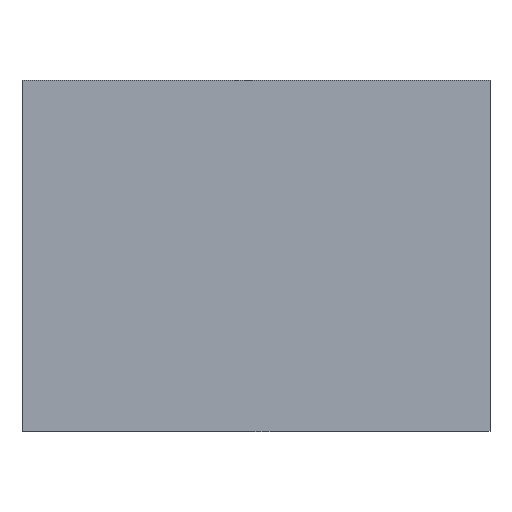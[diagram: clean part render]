
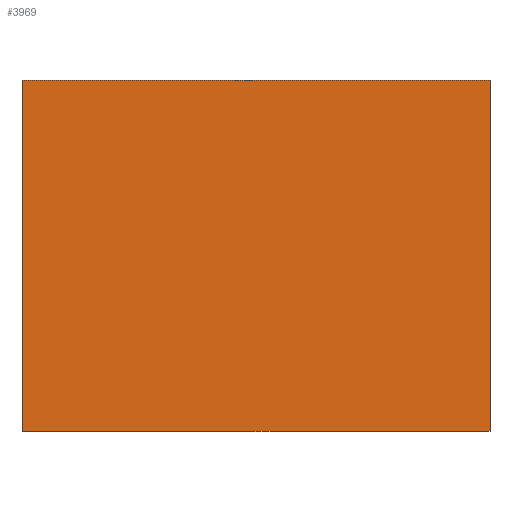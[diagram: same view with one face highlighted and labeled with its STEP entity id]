
A CAD part, front view. The second image highlights one B-rep face of the part: STEP entity #3969.
In plain terms, the highlighted planar face has unit normal (0, -1, 0).
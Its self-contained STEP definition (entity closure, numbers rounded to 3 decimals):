
#49=DIRECTION('',(-1.,0.,0.));
#50=VECTOR('',#49,101.6);
#51=CARTESIAN_POINT('',(101.6,-112.,0.));
#52=LINE('',#51,#50);
#580=DIRECTION('',(0.,0.,-1.));
#581=VECTOR('',#580,76.2);
#582=CARTESIAN_POINT('',(101.6,-112.,76.2));
#583=LINE('',#582,#581);
#623=DIRECTION('',(-1.,0.,0.));
#624=VECTOR('',#623,101.6);
#625=CARTESIAN_POINT('',(101.6,-112.,76.2));
#626=LINE('',#625,#624);
#1797=DIRECTION('',(0.,0.,-1.));
#1798=VECTOR('',#1797,76.2);
#1799=CARTESIAN_POINT('',(0.,-112.,76.2));
#1800=LINE('',#1799,#1798);
#2071=CARTESIAN_POINT('',(0.,-112.,0.));
#2073=VERTEX_POINT('',#2071);
#2075=CARTESIAN_POINT('',(101.6,-112.,0.));
#2076=VERTEX_POINT('',#2075);
#2079=CARTESIAN_POINT('',(0.,-112.,76.2));
#2081=VERTEX_POINT('',#2079);
#2083=CARTESIAN_POINT('',(101.6,-112.,76.2));
#2084=VERTEX_POINT('',#2083);
#3957=CARTESIAN_POINT('',(0.,-112.,0.));
#3958=DIRECTION('',(0.,-1.,0.));
#3959=DIRECTION('',(1.,0.,0.));
#3960=AXIS2_PLACEMENT_3D('',#3957,#3958,#3959);
#3961=PLANE('',#3960);
#3962=ORIENTED_EDGE('',*,*,#2372,.T.);
#3964=ORIENTED_EDGE('',*,*,#3963,.F.);
#3965=ORIENTED_EDGE('',*,*,#2973,.F.);
#3966=ORIENTED_EDGE('',*,*,#2939,.T.);
#3967=EDGE_LOOP('',(#3962,#3964,#3965,#3966));
#3968=FACE_OUTER_BOUND('',#3967,.F.);
#2372=EDGE_CURVE('',#2076,#2073,#52,.T.);
#2939=EDGE_CURVE('',#2084,#2076,#583,.T.);
#2973=EDGE_CURVE('',#2084,#2081,#626,.T.);
#3963=EDGE_CURVE('',#2081,#2073,#1800,.T.);
#3969=ADVANCED_FACE('',(#3968),#3961,.T.);
